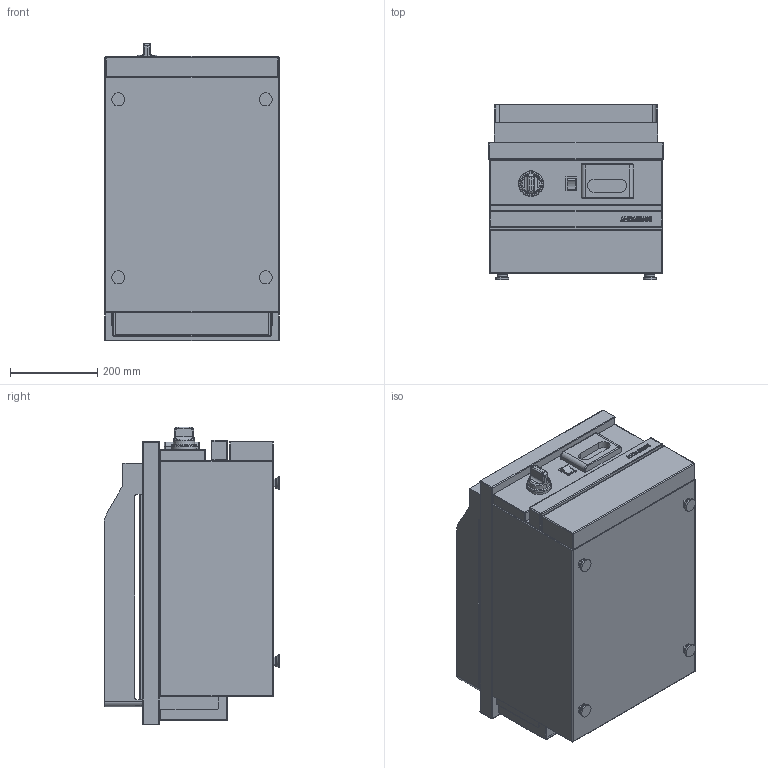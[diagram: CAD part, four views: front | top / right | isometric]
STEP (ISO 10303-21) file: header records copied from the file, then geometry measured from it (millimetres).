
FILE_DESCRIPTION((''),'2;1');
FILE_NAME('CSE410SLRC_EXPORT_STEP_ASM','2017-11-22T',('r.avril'),(''),'PRO/ENGINEER BY PARAMETRIC TECHNOLOGY CORPORATION, 2014200','PRO/ENGINEER BY PARAMETRIC TECHNOLOGY CORPORATION, 2014200','');
FILE_SCHEMA(('AP203_CONFIGURATION_CONTROLLED_3D_DESIGN_OF_MECHANICAL_PARTS_AND_ASSEMBLIES_MIM_LF { 1 0 10303 403 2 1 2 }'));
Length unit declared in the file: millimetre
Products named in the file (10): SNACKS_AMB_400_EXPORT_STEP; TABLE_410_GRILLADE; TABLE_410_GRILLADE_ASM; MANETTE_AMB_EXPORT_STEP; TIROIR_GRILLADE_EXPORT_STEP; 50288700; 50289100; 65070007_ASM; BASCULEUR_AMB_EXPORT_DXF; CSE410SLRC_EXPORT_STEP_ASM
Assembly tree (9 placements, depth 3):
  CSE410SLRC_EXPORT_STEP_ASM
    SNACKS_AMB_400_EXPORT_STEP
    TABLE_410_GRILLADE_ASM
      TABLE_410_GRILLADE
    MANETTE_AMB_EXPORT_STEP
    TIROIR_GRILLADE_EXPORT_STEP
    65070007_ASM
      50288700
      50289100
    BASCULEUR_AMB_EXPORT_DXF
Bounding box: 400 x 402.43 x 682.5 mm (x, y, z)
Volume: 35778941.4 mm3; surface area: 2974336.5 mm2
Topology: 11 solids, 36 shells, 606 faces, 2138 edges, 1821 vertices
Faces by surface type: plane 250, cylinder 198, cone 74, sphere 42, torus 30, bspline 12
Entity records: 29810 total; most frequent: CARTESIAN_POINT 7535, DIRECTION 3627, ORIENTED_EDGE 3283, EDGE_CURVE 1880, VERTEX_POINT 1337, AXIS2_PLACEMENT_3D 1245, VECTOR 1107, LINE 1107
